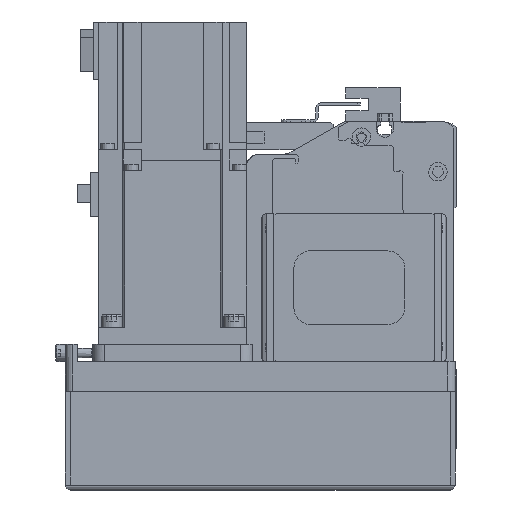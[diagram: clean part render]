
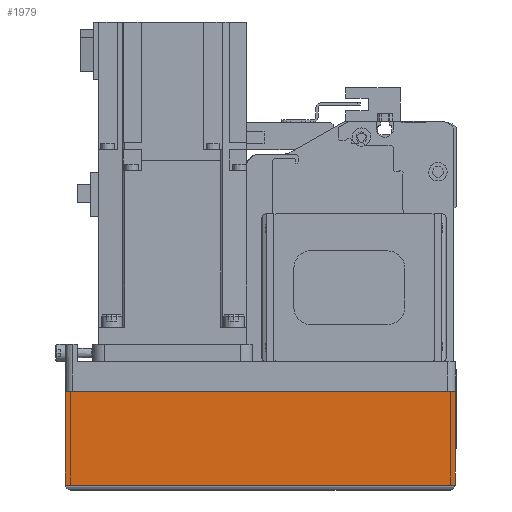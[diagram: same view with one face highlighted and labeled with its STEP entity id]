
A CAD part, left-side view. The second image highlights one B-rep face of the part: STEP entity #1979.
In plain terms, the highlighted planar face has unit normal (-1, 0, 0) as drawn and (0, -1, 0) by its records, which use the part's own axes.
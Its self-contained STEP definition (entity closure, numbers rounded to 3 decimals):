
#1979 = ADVANCED_FACE( '', ( #4781 ), #4782, .T. );
#4781 = FACE_OUTER_BOUND( '', #8657, .T. );
#4782 = PLANE( '', #8658 );
#8657 = EDGE_LOOP( '', ( #14351, #14352, #14353, #14354 ) );
#8658 = AXIS2_PLACEMENT_3D( '', #14355, #14356, #14357 );
#14351 = ORIENTED_EDGE( '', *, *, #23214, .F. );
#14352 = ORIENTED_EDGE( '', *, *, #21535, .F. );
#14353 = ORIENTED_EDGE( '', *, *, #22289, .T. );
#14354 = ORIENTED_EDGE( '', *, *, #21612, .T. );
#14355 = CARTESIAN_POINT( '', ( -158., -39., -12.1 ) );
#14356 = DIRECTION( '', ( 0., -1., 0. ) );
#14357 = DIRECTION( '', ( 0., 0., -1. ) );
#21535 = EDGE_CURVE( '', #25453, #25454, #25455, .T. );
#21612 = EDGE_CURVE( '', #25587, #25591, #25593, .T. );
#22289 = EDGE_CURVE( '', #25453, #25587, #26783, .T. );
#23214 = EDGE_CURVE( '', #25454, #25591, #28309, .T. );
#25453 = VERTEX_POINT( '', #31282 );
#25454 = VERTEX_POINT( '', #31283 );
#25455 = LINE( '', #31284, #31285 );
#25587 = VERTEX_POINT( '', #31454 );
#25591 = VERTEX_POINT( '', #31459 );
#25593 = LINE( '', #31461, #31462 );
#26783 = LINE( '', #33237, #33238 );
#28309 = LINE( '', #35631, #35632 );
#31282 = CARTESIAN_POINT( '', ( -158., -39., -12.1 ) );
#31283 = CARTESIAN_POINT( '', ( 0., -39., -12.1 ) );
#31284 = CARTESIAN_POINT( '', ( -158., -39., -12.1 ) );
#31285 = VECTOR( '', #40525, 1000. );
#31454 = CARTESIAN_POINT( '', ( -158., -39., -50. ) );
#31459 = CARTESIAN_POINT( '', ( 0., -39., -50. ) );
#31461 = CARTESIAN_POINT( '', ( -158., -39., -50. ) );
#31462 = VECTOR( '', #40633, 1000. );
#33237 = CARTESIAN_POINT( '', ( -158., -39., -12.1 ) );
#33238 = VECTOR( '', #41527, 1000. );
#35631 = CARTESIAN_POINT( '', ( 0., -39., -12.1 ) );
#35632 = VECTOR( '', #42752, 1000. );
#40525 = DIRECTION( '', ( 1., 0., 0. ) );
#40633 = DIRECTION( '', ( 1., 0., 0. ) );
#41527 = DIRECTION( '', ( 0., 0., -1. ) );
#42752 = DIRECTION( '', ( 0., 0., -1. ) );
